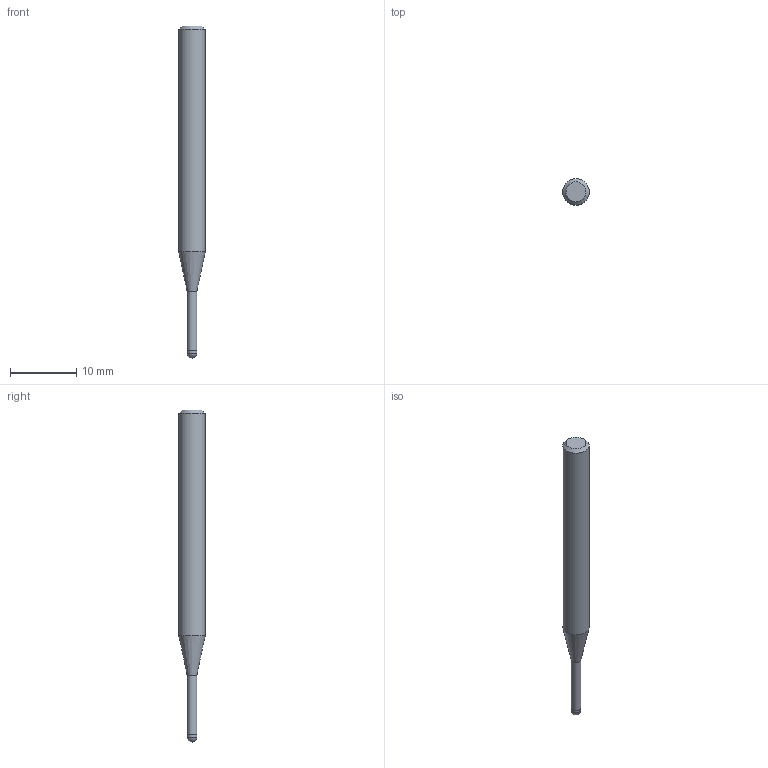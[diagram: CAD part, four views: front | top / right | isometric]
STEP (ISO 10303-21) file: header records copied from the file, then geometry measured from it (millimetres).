
FILE_DESCRIPTION((''),'2;1');
FILE_NAME('C:\Users\nsx150\AppData\Local\Temp\Mastercam 2021\ZXBT0ST9RL\TEMP.step','2021-06-25T11:03:01',(''),(''),'STEP Write','Mastercam 2021 ... CNC Software, Inc.','');
FILE_SCHEMA(('AUTOMOTIVE_DESIGN'));
Length unit declared in the file: millimetre
Products named in the file (1): None
Bounding box: 4 x 4 x 50 mm (x, y, z)
Volume: 479.6 mm3; surface area: 537.5 mm2
Topology: 2 solids, 2 shells, 9 faces, 14 edges, 8 vertices
Faces by surface type: plane 3, cylinder 3, cone 2, sphere 1
Full cylindrical faces by diameter (mm): 1.45 x1, 1.5 x1, 4 x1
Entity records: 211 total; most frequent: DIRECTION 36, CARTESIAN_POINT 25, AXIS2_PLACEMENT_3D 18, ORIENTED_EDGE 14, EDGE_LOOP 14, STYLED_ITEM 12, ADVANCED_FACE 9, FACE_BOUND 8
